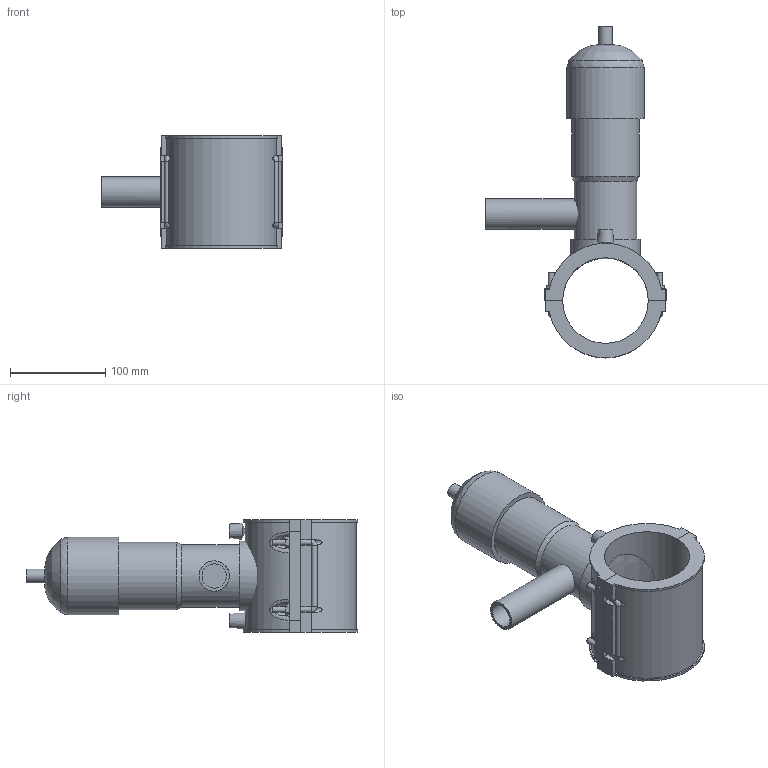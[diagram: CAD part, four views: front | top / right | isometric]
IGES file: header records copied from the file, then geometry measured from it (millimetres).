
Global section: file name: 495404090032.ipt; native system: Autodesk Inventor 2015; preprocessor: unknown; author: KIM; date: 20171106.094242; units: millimetre
Bounding box: 190 x 349.25 x 118 mm (x, y, z)
Volume: 1498079.9 mm3; surface area: 188677.4 mm2
Topology: 3 solids, 3 shells, 157 faces, 390 edges, 254 vertices
Faces by surface type: plane 99, cylinder 27, revolution 20, cone 7, bspline 4
Full cylindrical faces by diameter (mm): 4 x2, 6 x8, 14.64 x1, 32 x1, 65.88 x1, 70.76 x1, 73.2 x1, 81.333 x1
